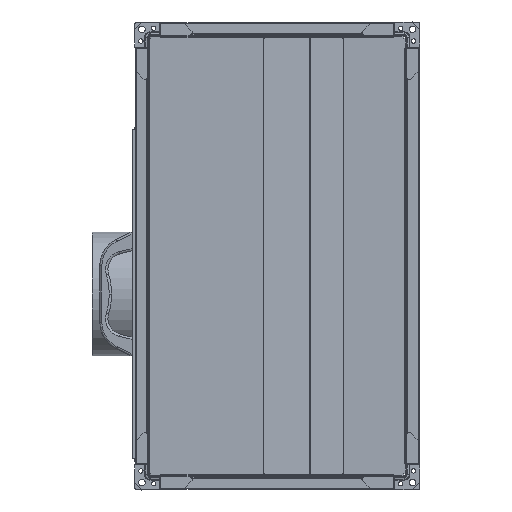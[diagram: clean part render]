
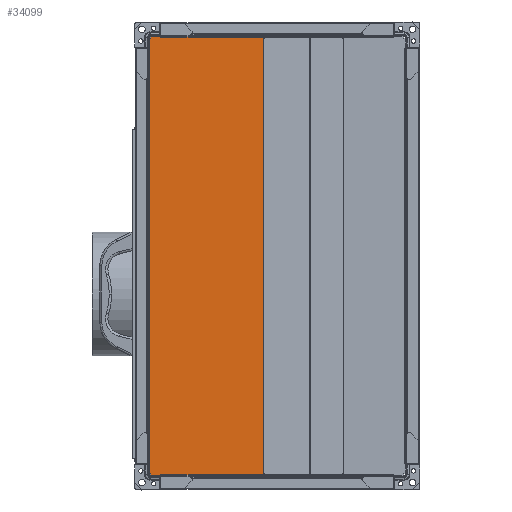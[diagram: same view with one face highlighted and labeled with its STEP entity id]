
A CAD part, left-side view. The second image highlights one B-rep face of the part: STEP entity #34099.
In plain terms, the highlighted planar face has unit normal (-1, 0, 0).
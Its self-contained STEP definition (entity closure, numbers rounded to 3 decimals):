
#3807=FACE_OUTER_BOUND('',#5641,.T.);
#5641=EDGE_LOOP('',(#29645,#29646,#29647,#29648,#29649,#29650,#29651,#29652,
#29653,#29654,#29655,#29656));
#9171=LINE('',#60497,#12217);
#9190=LINE('',#60538,#12236);
#9214=LINE('',#60590,#12260);
#9227=LINE('',#60617,#12273);
#9264=LINE('',#60685,#12310);
#9278=LINE('',#60708,#12324);
#9283=LINE('',#60717,#12329);
#9286=LINE('',#60723,#12332);
#9299=LINE('',#60745,#12345);
#9300=LINE('',#60747,#12346);
#9301=LINE('',#60749,#12347);
#9302=LINE('',#60750,#12348);
#12217=VECTOR('',#44003,10.);
#12236=VECTOR('',#44028,10.);
#12260=VECTOR('',#44062,10.);
#12273=VECTOR('',#44081,10.);
#12310=VECTOR('',#44136,10.);
#12324=VECTOR('',#44154,10.);
#12329=VECTOR('',#44161,10.);
#12332=VECTOR('',#44166,10.);
#12345=VECTOR('',#44189,10.);
#12346=VECTOR('',#44190,10.);
#12347=VECTOR('',#44191,10.);
#12348=VECTOR('',#44192,10.);
#15466=VERTEX_POINT('',#60494);
#15467=VERTEX_POINT('',#60496);
#15485=VERTEX_POINT('',#60535);
#15486=VERTEX_POINT('',#60537);
#15508=VERTEX_POINT('',#60587);
#15509=VERTEX_POINT('',#60589);
#15520=VERTEX_POINT('',#60616);
#15549=VERTEX_POINT('',#60707);
#15552=VERTEX_POINT('',#60715);
#15554=VERTEX_POINT('',#60721);
#15559=VERTEX_POINT('',#60746);
#15560=VERTEX_POINT('',#60748);
#20191=EDGE_CURVE('',#15466,#15467,#9171,.T.);
#20210=EDGE_CURVE('',#15485,#15486,#9190,.T.);
#20234=EDGE_CURVE('',#15509,#15508,#9214,.T.);
#20247=EDGE_CURVE('',#15509,#15520,#9227,.T.);
#20284=EDGE_CURVE('',#15467,#15485,#9264,.T.);
#20298=EDGE_CURVE('',#15520,#15549,#9278,.T.);
#20303=EDGE_CURVE('',#15508,#15552,#9283,.T.);
#20306=EDGE_CURVE('',#15466,#15554,#9286,.T.);
#20319=EDGE_CURVE('',#15486,#15552,#9299,.T.);
#20320=EDGE_CURVE('',#15554,#15559,#9300,.T.);
#20321=EDGE_CURVE('',#15560,#15559,#9301,.T.);
#20322=EDGE_CURVE('',#15549,#15560,#9302,.T.);
#29645=ORIENTED_EDGE('',*,*,#20319,.F.);
#29646=ORIENTED_EDGE('',*,*,#20210,.F.);
#29647=ORIENTED_EDGE('',*,*,#20284,.F.);
#29648=ORIENTED_EDGE('',*,*,#20191,.F.);
#29649=ORIENTED_EDGE('',*,*,#20306,.T.);
#29650=ORIENTED_EDGE('',*,*,#20320,.T.);
#29651=ORIENTED_EDGE('',*,*,#20321,.F.);
#29652=ORIENTED_EDGE('',*,*,#20322,.F.);
#29653=ORIENTED_EDGE('',*,*,#20298,.F.);
#29654=ORIENTED_EDGE('',*,*,#20247,.F.);
#29655=ORIENTED_EDGE('',*,*,#20234,.T.);
#29656=ORIENTED_EDGE('',*,*,#20303,.T.);
#31167=PLANE('',#36550);
#34099=ADVANCED_FACE('',(#3807),#31167,.F.);
#36550=AXIS2_PLACEMENT_3D('',#60744,#44187,#44188);
#44003=DIRECTION('',(0.,-1.,0.));
#44028=DIRECTION('',(0.,1.,0.));
#44062=DIRECTION('',(0.,0.,-1.));
#44081=DIRECTION('',(0.,1.,0.));
#44136=DIRECTION('',(0.,0.,-1.));
#44154=DIRECTION('',(0.,0.,1.));
#44161=DIRECTION('',(0.,-1.,0.));
#44166=DIRECTION('',(0.,0.,1.));
#44187=DIRECTION('center_axis',(1.,0.,0.));
#44188=DIRECTION('ref_axis',(0.,-1.,0.));
#44189=DIRECTION('',(0.,0.,-1.));
#44190=DIRECTION('',(0.,1.,0.));
#44191=DIRECTION('',(0.,0.,1.));
#44192=DIRECTION('',(0.,-1.,0.));
#60494=CARTESIAN_POINT('',(14.935,-168.912,581.5));
#60496=CARTESIAN_POINT('',(14.935,-169.74,581.5));
#60497=CARTESIAN_POINT('',(14.935,-131.109,581.5));
#60535=CARTESIAN_POINT('',(14.935,-169.74,-13.5));
#60537=CARTESIAN_POINT('',(14.935,-168.912,-13.5));
#60538=CARTESIAN_POINT('',(14.935,-162.696,-13.5));
#60587=CARTESIAN_POINT('',(14.935,-15.74,-15.5));
#60589=CARTESIAN_POINT('',(14.935,-15.74,-13.5));
#60590=CARTESIAN_POINT('',(14.935,-15.74,134.75));
#60616=CARTESIAN_POINT('',(14.935,-13.74,-13.5));
#60617=CARTESIAN_POINT('',(14.935,-14.764,-13.5));
#60685=CARTESIAN_POINT('',(14.935,-169.74,284.));
#60707=CARTESIAN_POINT('',(14.935,-13.74,581.5));
#60708=CARTESIAN_POINT('',(14.935,-13.74,432.75));
#60715=CARTESIAN_POINT('',(14.935,-168.912,-15.5));
#60717=CARTESIAN_POINT('',(14.935,-92.109,-15.5));
#60721=CARTESIAN_POINT('',(14.935,-168.912,583.5));
#60723=CARTESIAN_POINT('',(14.935,-168.912,433.25));
#60744=CARTESIAN_POINT('Origin',(14.935,-91.892,284.));
#60745=CARTESIAN_POINT('',(14.935,-168.912,134.75));
#60746=CARTESIAN_POINT('',(14.935,-15.74,583.5));
#60747=CARTESIAN_POINT('',(14.935,-92.109,583.5));
#60748=CARTESIAN_POINT('',(14.935,-15.74,581.5));
#60749=CARTESIAN_POINT('',(14.935,-15.74,433.25));
#60750=CARTESIAN_POINT('',(14.935,-14.764,581.5));
